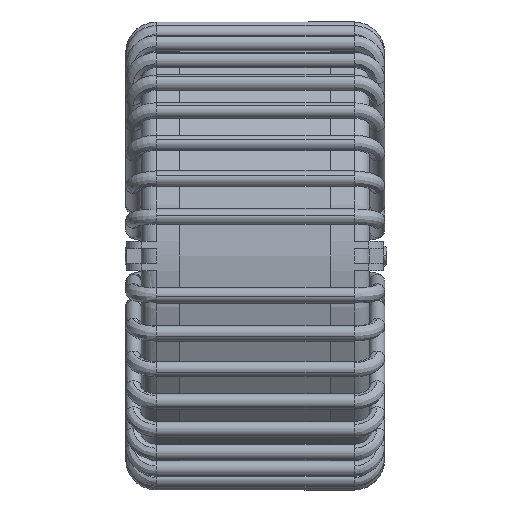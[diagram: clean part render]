
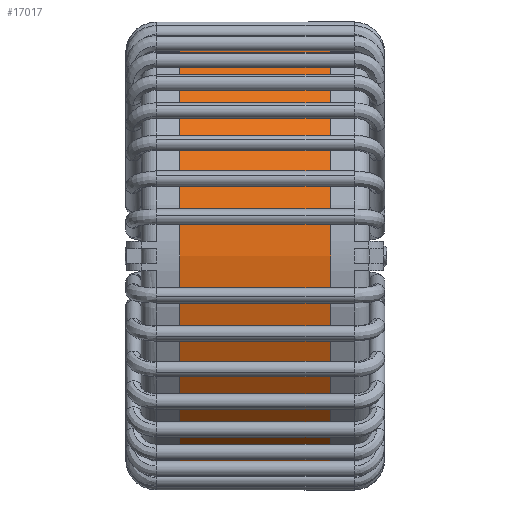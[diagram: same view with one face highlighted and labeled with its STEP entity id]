
A CAD part, left-side view. The second image highlights one B-rep face of the part: STEP entity #17017.
In plain terms, the highlighted cylindrical face has radius 14.57 mm (diameter 29.14 mm), a partial arc.
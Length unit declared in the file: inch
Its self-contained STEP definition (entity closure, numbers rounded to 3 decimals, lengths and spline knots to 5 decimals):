
#106 = VECTOR ( 'NONE', #6713, 39.37008 ) ;
#224 = DIRECTION ( 'NONE',  ( 0., 1., 0. ) ) ;
#1119 = EDGE_CURVE ( 'NONE', #20868, #9651, #38269, .T. ) ;
#2158 = VERTEX_POINT ( 'NONE', #31079 ) ;
#2442 = CARTESIAN_POINT ( 'NONE',  ( 0., -0.19685, 0.57362 ) ) ;
#3114 = CARTESIAN_POINT ( 'NONE',  ( 0., 0.19685, 0. ) ) ;
#3238 = ORIENTED_EDGE ( 'NONE', *, *, #8200, .F. ) ;
#5046 = FACE_OUTER_BOUND ( 'NONE', #18348, .T. ) ;
#6713 = DIRECTION ( 'NONE',  ( 0., -1., 0. ) ) ;
#8200 = EDGE_CURVE ( 'NONE', #20868, #2158, #26764, .T. ) ;
#9651 = VERTEX_POINT ( 'NONE', #23211 ) ;
#9864 = AXIS2_PLACEMENT_3D ( 'NONE', #3114, #26933, #23686 ) ;
#11576 = DIRECTION ( 'NONE',  ( 0., 0., 1. ) ) ;
#13389 = EDGE_CURVE ( 'NONE', #9651, #32245, #14709, .T. ) ;
#14709 = CIRCLE ( 'NONE', #34932, 0.57362 ) ;
#15690 = CARTESIAN_POINT ( 'NONE',  ( 0., 0.19685, -0.57362 ) ) ;
#17017 = ADVANCED_FACE ( 'NONE', ( #5046 ), #28250, .T. ) ;
#17381 = DIRECTION ( 'NONE',  ( 0., 1., 0. ) ) ;
#18348 = EDGE_LOOP ( 'NONE', ( #31632, #3238, #32283, #36974 ) ) ;
#20868 = VERTEX_POINT ( 'NONE', #26551 ) ;
#21871 = CARTESIAN_POINT ( 'NONE',  ( 0., -0.19685, 0. ) ) ;
#23211 = CARTESIAN_POINT ( 'NONE',  ( 0., -0.19685, -0.57362 ) ) ;
#23686 = DIRECTION ( 'NONE',  ( 0., 0., -1. ) ) ;
#25720 = EDGE_CURVE ( 'NONE', #2158, #32245, #33203, .T. ) ;
#26551 = CARTESIAN_POINT ( 'NONE',  ( 0., 0.19685, -0.57362 ) ) ;
#26764 = CIRCLE ( 'NONE', #36435, 0.57362 ) ;
#26933 = DIRECTION ( 'NONE',  ( 0., -1., 0. ) ) ;
#27224 = DIRECTION ( 'NONE',  ( 0., -1., 0. ) ) ;
#28250 = CYLINDRICAL_SURFACE ( 'NONE', #9864, 0.57362 ) ;
#30032 = VECTOR ( 'NONE', #27224, 39.37008 ) ;
#31079 = CARTESIAN_POINT ( 'NONE',  ( 0., 0.19685, 0.57362 ) ) ;
#31632 = ORIENTED_EDGE ( 'NONE', *, *, #25720, .F. ) ;
#32245 = VERTEX_POINT ( 'NONE', #2442 ) ;
#32283 = ORIENTED_EDGE ( 'NONE', *, *, #1119, .T. ) ;
#33093 = DIRECTION ( 'NONE',  ( 0., 0., 1. ) ) ;
#33203 = LINE ( 'NONE', #33840, #106 ) ;
#33840 = CARTESIAN_POINT ( 'NONE',  ( 0., 0.19685, 0.57362 ) ) ;
#34932 = AXIS2_PLACEMENT_3D ( 'NONE', #21871, #17381, #11576 ) ;
#35023 = CARTESIAN_POINT ( 'NONE',  ( 0., 0.19685, 0. ) ) ;
#36435 = AXIS2_PLACEMENT_3D ( 'NONE', #35023, #224, #33093 ) ;
#36974 = ORIENTED_EDGE ( 'NONE', *, *, #13389, .T. ) ;
#38269 = LINE ( 'NONE', #15690, #30032 ) ;
